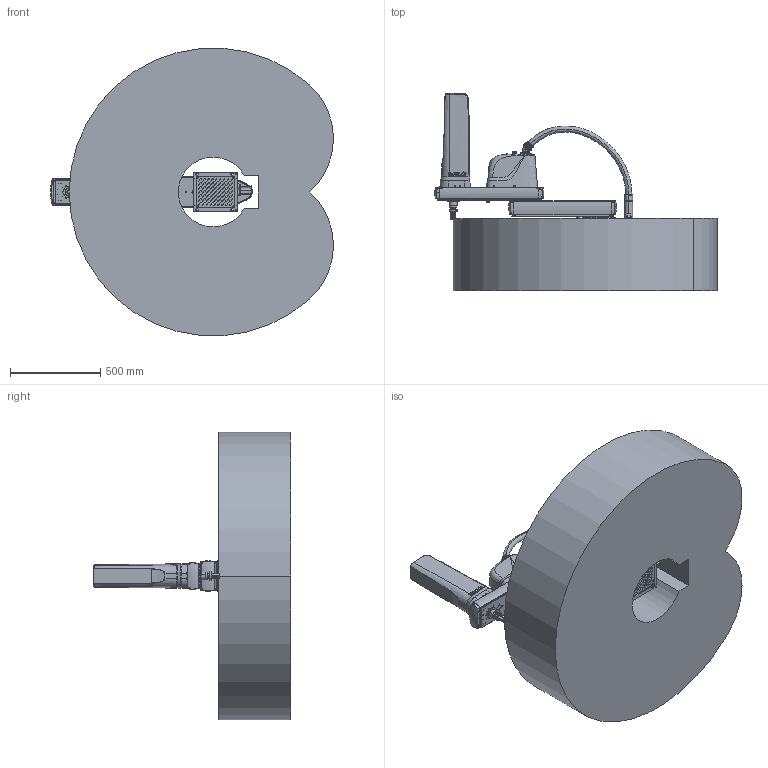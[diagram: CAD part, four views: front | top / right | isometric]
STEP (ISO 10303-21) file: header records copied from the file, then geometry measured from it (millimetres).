
FILE_DESCRIPTION (( 'STEP AP203' ), '1' );
FILE_NAME ('TRH010-800-400-S_机器人（STEP）.STEP', '2025-06-30T09:30:59', ( 'Windows User' ), ( 'P R C' ), 'SwSTEP 2.0', 'SolidWorks 2023', '' );
FILE_SCHEMA (( 'CONFIG_CONTROL_DESIGN' ));
Length unit declared in the file: millimetre
Products named in the file (7): 复件 TRH010-800-400-S-1^TRH010-800-400-S-可拖动机器（SW2023）; 复件 TRH010-800-400-S-2^TRH010-800-400-S-可拖动机器（SW2023）; 复件 TRH010-800-400-S-5^TRH010-800-400-S-可拖动机器（SW2023）; 复件 TRH010-800_Space^TRH010-800-400-S-可拖动机器（SW2023）; 复件 TRH010-800-400-S-4^TRH010-800-400-S-可拖动机器（SW2023）; 复件 TRH010-800-400-S-3^TRH010-800-400-S-可拖动机器（SW2023）; TRH010-800-400-S_机器人（STEP）
Assembly tree (6 placements, depth 2):
  TRH010-800-400-S_机器人（STEP）
    复件 TRH010-800-400-S-1^TRH010-800-400-S-可拖动机器（SW2023）
    复件 TRH010-800-400-S-2^TRH010-800-400-S-可拖动机器（SW2023）
    复件 TRH010-800-400-S-3^TRH010-800-400-S-可拖动机器（SW2023）
    复件 TRH010-800-400-S-4^TRH010-800-400-S-可拖动机器（SW2023）
    复件 TRH010-800-400-S-5^TRH010-800-400-S-可拖动机器（SW2023）
    复件 TRH010-800_Space^TRH010-800-400-S-可拖动机器（SW2023）
Bounding box: 1571.25 x 1097 x 1595.53 mm (x, y, z)
Volume: 749538144.1 mm3; surface area: 7881732.2 mm2
Topology: 40 solids, 144 shells, 6130 faces, 14824 edges, 9130 vertices
Faces by surface type: plane 2516, cylinder 1884, bspline 874, cone 606, torus 173, sphere 77
Entity records: 230221 total; most frequent: CARTESIAN_POINT 92404, ORIENTED_EDGE 28956, DIRECTION 27731, EDGE_CURVE 14478, AXIS2_PLACEMENT_3D 10590, VERTEX_POINT 9125, EDGE_LOOP 6867, VECTOR 6551
